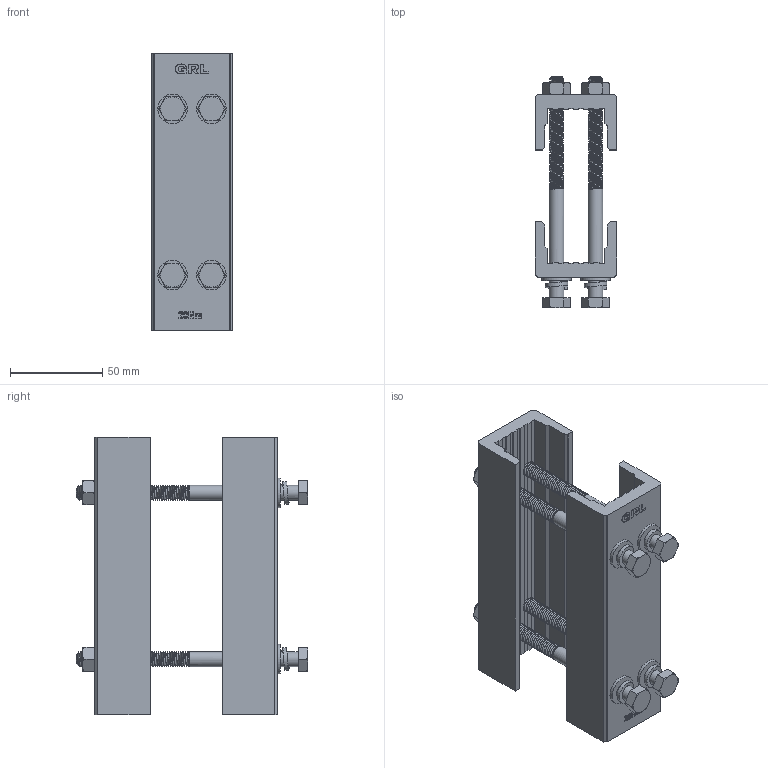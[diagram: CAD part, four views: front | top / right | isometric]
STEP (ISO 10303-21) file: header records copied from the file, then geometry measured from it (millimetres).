
FILE_DESCRIPTION (( 'STEP AP203' ), '1' );
FILE_NAME ('54275L.STEP', '2021-08-16T05:40:24', ( '' ), ( '' ), 'SwSTEP 2.0', 'SolidWorks 2017', '' );
FILE_SCHEMA (( 'CONFIG_CONTROL_DESIGN' ));
Products named in the file (2): 54275L
Bounding box: 44 x 125.3 x 150 mm (x, y, z)
Surface area: 84921.8 mm2 (no closed solid volume)
Topology: 0 solids, 28 shells, 1094 faces, 3118 edges, 2072 vertices
Faces by surface type: plane 588, cylinder 280, bspline 206, cone 20
Full cylindrical faces by diameter (mm): 6.65 x4, 8 x204, 8.5 x8, 9 x4, 16 x4
Entity records: 76016 total; most frequent: CARTESIAN_POINT 55088, ORIENTED_EDGE 4508, DIRECTION 3466, EDGE_CURVE 2430, VECTOR 1654, LINE 1654, VERTEX_POINT 1640, EDGE_LOOP 994
